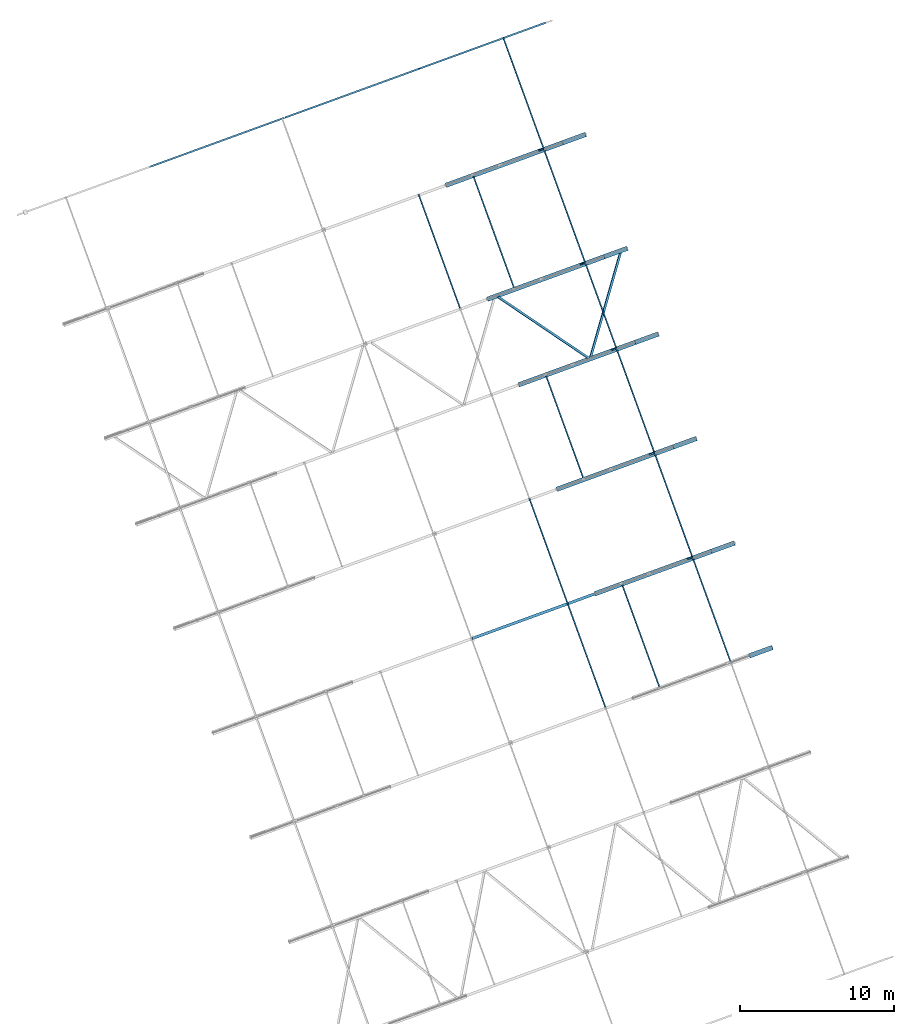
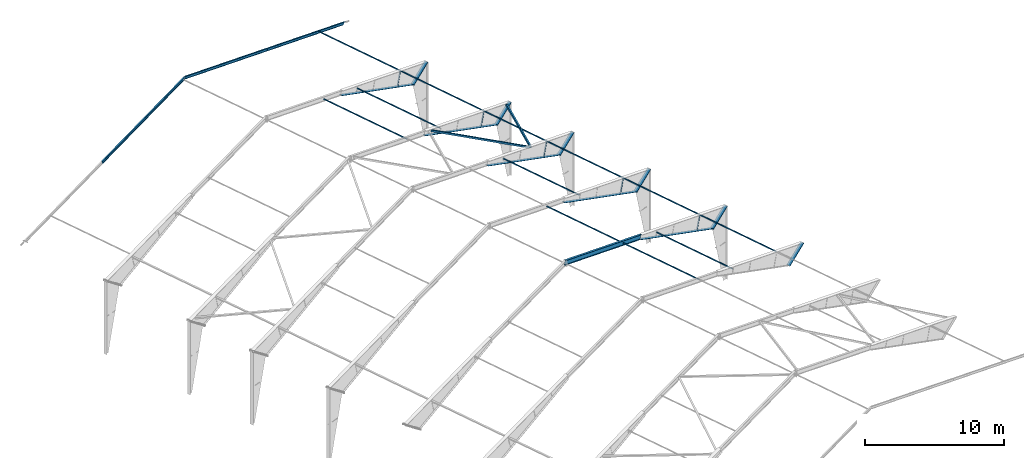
# One storey, part 4 of 17: 22 members, 18 beams, 4 openings, 40 elements without a shape of their own.
"""IFC4 building model written with IfcOpenShell, lengths in millimetres."""

import ifcopenshell
import ifcopenshell.guid

model = None  # the IFC model being written
_history = None  # IfcOwnerHistory: only IFC2X3 demands one
_inside = {}  # id of a spatial element -> (the spatial element, [elements in it])
_under = {}  # id of a project, library or spatial element -> (it, [spatial elements below it])
_declared = {}  # id of a project -> (the project, [libraries it declares])
_typed = {}  # id of a type object -> (the type object, [elements of that type])
_made_of = {}  # id of a material, layer set ... -> (it, [elements and type objects made of it])


def new_model(schema):
    """Start an empty IFC model of exactly this schema.

    Asked for "IFC4X3", IfcOpenShell would pick the latest addendum, in which some entities
    have other attributes; the version numbers below select the first issue.
    IFC2X3 requires an IfcOwnerHistory on every rooted entity: one is made here for all.
    """
    global model, _history
    if schema == "IFC4X3":
        model = ifcopenshell.file(schema_version=(4, 3, 0, 0))
    else:
        model = ifcopenshell.file(schema=schema)
    _inside.clear()
    _under.clear()
    _declared.clear()
    _typed.clear()
    _made_of.clear()
    _history = None
    if model.schema == "IFC2X3":
        org = make("IfcOrganization", Name="unknown")
        user = make(
            "IfcPersonAndOrganization",
            ThePerson=make("IfcPerson", FamilyName="unknown"),
            TheOrganization=org,
        )
        app = make(
            "IfcApplication",
            ApplicationDeveloper=org,
            Version="unknown",
            ApplicationFullName="unknown",
            ApplicationIdentifier="unknown",
        )
        _history = make(
            "IfcOwnerHistory",
            OwningUser=user,
            OwningApplication=app,
            ChangeAction="ADDED",
            CreationDate=0,
        )
    return model


def make(cls, **values):
    """One entity of the class cls with the attributes given. An attribute that is None is left unset."""
    return model.create_entity(
        cls, **{name: value for name, value in values.items() if value is not None}
    )


def rooted(cls, **values):
    """An entity with a GlobalId (a new one), such as an element, a storey or a relation."""
    return make(cls, GlobalId=ifcopenshell.guid.new(), OwnerHistory=_history, **values)


def si_unit(unit_type, name, prefix=None):
    """IfcSIUnit, for example si_unit("LENGTHUNIT", "METRE", prefix="MILLI")."""
    return make("IfcSIUnit", UnitType=unit_type, Prefix=prefix, Name=name)


def assignment(units):
    """IfcUnitAssignment: the units of a project."""
    return None if units is None else make("IfcUnitAssignment", Units=units)


def point(xyz):
    """IfcCartesianPoint."""
    return None if xyz is None else make("IfcCartesianPoint", Coordinates=xyz)


def direction(xyz):
    """IfcDirection."""
    return None if xyz is None else make("IfcDirection", DirectionRatios=xyz)


def frame(location, z_axis=None, x_axis=None):
    """IfcAxis2Placement3D, a coordinate frame: its origin and axes. An axis left out is left unset."""
    return make(
        "IfcAxis2Placement3D",
        Location=point(location),
        Axis=direction(z_axis),
        RefDirection=direction(x_axis),
    )


def origin_with_axes():
    """The frame at (0, 0, 0) with the z axis (0, 0, 1) and the x axis (1, 0, 0) written out."""
    return frame((0.0, 0.0, 0.0), z_axis=(0.0, 0.0, 1.0), x_axis=(1.0, 0.0, 0.0))


def place(relative_to, where):
    """IfcLocalPlacement: puts the frame where relative to a parent placement (None: the world)."""
    return make(
        "IfcLocalPlacement", PlacementRelTo=relative_to, RelativePlacement=where
    )


def context(
    kind, dimensions, precision=None, world=None, true_north=None, identifier=None
):
    """IfcGeometricRepresentationContext, for example the 3D "Model" context."""
    return make(
        "IfcGeometricRepresentationContext",
        ContextIdentifier=identifier,
        ContextType=kind,
        CoordinateSpaceDimension=dimensions,
        Precision=precision,
        WorldCoordinateSystem=world,
        TrueNorth=true_north,
    )


def subcontext(parent, identifier, kind, view, scale=None):
    """IfcGeometricRepresentationSubContext, for example "Body" below "Model"."""
    return make(
        "IfcGeometricRepresentationSubContext",
        ContextIdentifier=identifier,
        ContextType=kind,
        ParentContext=parent,
        TargetScale=scale,
        TargetView=view,
    )


def project(units=None, contexts=None):
    """IfcProject with its units and contexts."""
    return rooted(
        "IfcProject",
        Name="project",
        RepresentationContexts=contexts,
        UnitsInContext=assignment(units),
    )


def spatial(cls, under=None, at=None, **own):
    """A site, building, storey or space (cls), placed at a placement, below another one or the project."""
    s = rooted(cls, ObjectPlacement=at, **own)
    if under is not None:
        _under.setdefault(under.id(), (under, []))[1].append(s)
    return s


def point_list(points):
    """IfcCartesianPointList2D or 3D."""
    cls = (
        "IfcCartesianPointList2D" if len(points[0]) == 2 else "IfcCartesianPointList3D"
    )
    return make(cls, CoordList=points)


def line(*indices):
    """IfcLineIndex: a straight run through numbered points of an indexed curve."""
    return model.create_entity("IfcLineIndex", indices)


def indexed_curve(points, segments=None, self_intersect=None):
    """IfcIndexedPolyCurve: lines and arcs through numbered points (the first is 1)."""
    return make(
        "IfcIndexedPolyCurve",
        Points=point_list(points),
        Segments=segments,
        SelfIntersect=self_intersect,
    )


def outline(outer, holes=None, kind="AREA"):
    """IfcArbitraryClosedProfileDef: a profile drawn as a closed curve; with holes, ...WithVoids."""
    if holes is None:
        return make("IfcArbitraryClosedProfileDef", ProfileType=kind, OuterCurve=outer)
    return make(
        "IfcArbitraryProfileDefWithVoids",
        ProfileType=kind,
        OuterCurve=outer,
        InnerCurves=holes,
    )


def extrude(swept, where, along, depth):
    """IfcExtrudedAreaSolid: the profile swept, set in the frame where, extruded along a direction by depth."""
    return make(
        "IfcExtrudedAreaSolid",
        SweptArea=swept,
        Position=where,
        ExtrudedDirection=direction(along),
        Depth=depth,
    )


def shape(context_of_items, identifier, shape_type, items):
    """IfcShapeRepresentation: the items that make up one representation, for example the "Body"."""
    return make(
        "IfcShapeRepresentation",
        ContextOfItems=context_of_items,
        RepresentationIdentifier=identifier,
        RepresentationType=shape_type,
        Items=items,
    )


def material(Name=None, Category=None):
    """IfcMaterial."""
    return make("IfcMaterial", Name=Name, Category=Category)


def made_of(thing, what):
    """Note that an element or type object is made of a material, layer set ...; save() writes the relation."""
    if what is not None:
        _made_of.setdefault(what.id(), (what, []))[1].append(thing)
    return thing


def element(
    cls,
    number,
    at=None,
    inside=None,
    cuts=None,
    type_object=None,
    material=None,
    context=None,
    identifier="Body",
    shape_type=None,
    held_by="IfcProductDefinitionShape",
    body=None,
    shapes=None,
    **own,
):
    """One element of the class cls, such as IfcWall. Its Tag is "e" and its number.

    at: its placement. inside: the storey or other place that contains it. cuts: it is an
    opening in that element (IfcRelVoidsElement). A single representation is given by context,
    identifier, shape_type and body (its items); several are given by shapes. held_by: the class
    of the entity that holds the representations. save() writes the other relations.
    """
    e = rooted(cls, Tag="e%d" % number, ObjectPlacement=at, **own)
    if body is not None:
        shapes = [shape(context, identifier, shape_type, body)]
    if shapes is not None:
        e.Representation = make(held_by, Representations=shapes)
    if inside is not None:
        _inside.setdefault(inside.id(), (inside, []))[1].append(e)
    if cuts is not None:
        rooted(
            "IfcRelVoidsElement", RelatingBuildingElement=cuts, RelatedOpeningElement=e
        )
    if type_object is not None:
        _typed.setdefault(type_object.id(), (type_object, []))[1].append(e)
    return made_of(e, material)


def aggregate(whole, parts):
    """IfcRelAggregates: a whole, such as a stair, and the parts it consists of."""
    return rooted("IfcRelAggregates", RelatingObject=whole, RelatedObjects=parts)


def save(model, path):
    """Write the relations noted so far, then the file.

    IfcRelAggregates (storeys below a building ...), IfcRelContainedInSpatialStructure (elements
    in a storey), IfcRelDefinesByType, IfcRelAssociatesMaterial and IfcRelDeclares: one each for
    every whole, place, type object, material and project.
    """
    for whole, parts in _under.values():
        aggregate(whole, parts)
    for where, things in _inside.values():
        rooted(
            "IfcRelContainedInSpatialStructure",
            RelatedElements=things,
            RelatingStructure=where,
        )
    for kind, things in _typed.values():
        rooted("IfcRelDefinesByType", RelatedObjects=things, RelatingType=kind)
    for what, things in _made_of.values():
        rooted("IfcRelAssociatesMaterial", RelatedObjects=things, RelatingMaterial=what)
    for by, libraries in _declared.values():
        rooted("IfcRelDeclares", RelatingContext=by, RelatedDefinitions=libraries)
    model.write(path)


model = new_model("IFC4")

# Units and contexts
model_context = context("Model", 3, precision=0.2, world=frame((203566.813, 116264.779, 0.0), z_axis=(0.0, 0.0, 1.0), x_axis=(1.0, 0.0, 0.0)), true_north=direction((-0.9396138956, -0.3422363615)))
body_context = subcontext(model_context, "Body", "Model", "MODEL_VIEW")
ifc_project = project(units=[si_unit("LENGTHUNIT", "METRE", prefix="MILLI"), si_unit("AREAUNIT", "SQUARE_METRE"), si_unit("VOLUMEUNIT", "CUBIC_METRE"), si_unit("MASSUNIT", "GRAM", prefix="KILO"), si_unit("TIMEUNIT", "SECOND"), si_unit("PLANEANGLEUNIT", "RADIAN"), si_unit("SOLIDANGLEUNIT", "STERADIAN"), si_unit("THERMODYNAMICTEMPERATUREUNIT", "DEGREE_CELSIUS"), si_unit("LUMINOUSINTENSITYUNIT", "LUMEN")], contexts=[model_context])

# Site, building, storey
site_placement = place(None, origin_with_axes())
site = spatial("IfcSite", under=ifc_project, at=site_placement, Name="Nobelprojektet", CompositionType="ELEMENT")
building_placement = place(site_placement, origin_with_axes())
building = spatial("IfcBuilding", under=site, at=building_placement, Name="Hall B", CompositionType="ELEMENT")
storey_placement = place(building_placement, frame((0.0, 0.0, 136000.0), z_axis=(0.0, 0.0, 1.0), x_axis=(1.0, 0.0, 0.0)))
storey = spatial("IfcBuildingStorey", under=building, at=storey_placement, Name="Plan_2", CompositionType="ELEMENT", Elevation=136000.0)

# Assembly, member
assembly_1_placement = place(storey_placement, frame((176881.47226, 145513.47574, 3646.88647), z_axis=(-0.5718109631, -0.2082717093, 0.7935081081), x_axis=(-0.7455910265, -0.2715679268, -0.6085596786)))
assembly_1 = element("IfcElementAssembly", 1, at=assembly_1_placement, inside=storey, Name="BEF. STOMME", PredefinedType="NOTDEFINED")
ifc_material = material(Name="S355J2", Category="STEEL")
member_1_placement = place(assembly_1_placement, origin_with_axes())
member_1 = element("IfcMember", 2, at=member_1_placement, material=ifc_material, Name="BEF. STOMME", PredefinedType="NOTDEFINED", context=body_context, shape_type="SolidModel", body=[
    extrude(outline(indexed_curve([(-12.5, -150.0), (12.5, -150.0), (12.5, 150.0), (-12.5, 150.0)], segments=[line(1, 2, 3, 4, 1)])), frame((0.0, 0.0, 0.0), z_axis=(-1.0, 0.0, 0.0), x_axis=(0.0, 0.0, 1.0)), (0.0, 0.0, -1.0), 1980.00858),
])
aggregate(assembly_1, [member_1])

assembly_2_placement = place(storey_placement, frame((176867.18074, 145508.27031, 3666.72647), z_axis=(-0.5718109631, -0.2082717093, 0.7935081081), x_axis=(-0.7455910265, -0.2715679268, -0.6085596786)))
assembly_2 = element("IfcElementAssembly", 3, at=assembly_2_placement, inside=storey, Name="BEF. STOMME", PredefinedType="NOTDEFINED")
member_2_placement = place(assembly_2_placement, origin_with_axes())
member_2 = element("IfcMember", 4, at=member_2_placement, material=ifc_material, Name="BEF. STOMME", PredefinedType="NOTDEFINED", context=body_context, shape_type="SolidModel", body=[
    extrude(outline(indexed_curve([(-12.5, -150.0), (12.5, -150.0), (12.5, 150.0), (-12.5, 150.0)], segments=[line(1, 2, 3, 4, 1)])), frame((0.0, 0.0, 0.0), z_axis=(-1.0, 0.0, 0.0), x_axis=(0.0, 0.0, 1.0)), (0.0, 0.0, -1.0), 1980.00858),
])
aggregate(assembly_2, [member_2])

# Assembly, beam, voiding feature
assembly_3_placement = place(storey_placement, frame((136596.07391, 176640.9237, 5907.00664), z_axis=(-0.3422371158, 0.9396136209, 1.3e-09), x_axis=(0.9075966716, 0.3305755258, 0.2588206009)))
assembly_3 = element("IfcElementAssembly", 5, at=assembly_3_placement, inside=storey, Name="BEF. STOMME", PredefinedType="NOTDEFINED")
beam_1_placement = place(assembly_3_placement, origin_with_axes())
beam_1 = element("IfcBeam", 6, at=beam_1_placement, material=ifc_material, Name="BEF. STOMME", PredefinedType="NOTDEFINED", context=body_context, shape_type="SolidModel", body=[
    extrude(outline(indexed_curve([(-55.0, -110.0), (55.0, -110.0), (55.0, -100.8), (2.95, -100.8), (2.95, 100.8), (55.0, 100.8), (55.0, 110.0), (-55.0, 110.0), (-55.0, 100.8), (-2.95, 100.8), (-2.95, -100.8), (-55.0, -100.8)], segments=[line(1, 2, 3, 4, 5, 6, 7, 8, 9, 10, 11, 12, 1)])), frame((0.0, 0.0, 0.0), z_axis=(-1.0, 0.0, 0.0), x_axis=(0.0, 0.0, 1.0)), (0.0, 0.0, -1.0), 9599.25787),
])
voiding_feature_1_placement = place(beam_1_placement, frame((9599.25787, -110.0, 0.00069), z_axis=(0.0, 0.0, -1.0), x_axis=(-0.258818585, 0.9659259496, -3e-10)))
element("IfcVoidingFeature", 7, at=voiding_feature_1_placement, cuts=beam_1, Name="CUTPART", PredefinedType="HOLE", context=body_context, shape_type="SolidModel", body=[
    extrude(outline(indexed_curve([(0.0, 0.0), (227.75553, 0.0), (212.50371, 56.94009)], segments=[line(1, 2, 3, 1)])), frame((0.0, 0.0, 57.5), z_axis=(0.0, 0.0, 1.0), x_axis=(1.0, 0.0, 0.0)), (0.0, 0.0, -1.0), 115.0),
])
aggregate(assembly_3, [beam_1])

assembly_4_placement = place(storey_placement, frame((162169.50537, 185955.57946, 3578.63666), z_axis=(0.3422371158, -0.9396136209, 1.3e-09), x_axis=(-0.9075966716, -0.3305755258, 0.2588206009)))
assembly_4 = element("IfcElementAssembly", 8, at=assembly_4_placement, inside=storey, Name="BEF. STOMME", PredefinedType="NOTDEFINED")
beam_2_placement = place(assembly_4_placement, origin_with_axes())
beam_2 = element("IfcBeam", 9, at=beam_2_placement, material=ifc_material, Name="BEF. STOMME", PredefinedType="NOTDEFINED", context=body_context, shape_type="SolidModel", body=[
    extrude(outline(indexed_curve([(-55.0, -110.0), (55.0, -110.0), (55.0, -100.8), (2.95, -100.8), (2.95, 100.8), (55.0, 100.8), (55.0, 110.0), (-55.0, 110.0), (-55.0, 100.8), (-2.95, 100.8), (-2.95, -100.8), (-55.0, -100.8)], segments=[line(1, 2, 3, 4, 5, 6, 7, 8, 9, 10, 11, 12, 1)])), frame((0.0, 0.0, 0.0), z_axis=(-1.0, 0.0, 0.0), x_axis=(0.0, 0.0, 1.0)), (0.0, 0.0, -1.0), 8966.09461),
])
voiding_feature_2_placement = place(beam_2_placement, frame((0.00035, 110.0, -0.00069), z_axis=(0.0, 0.0, -1.0), x_axis=(1.0, 0.0, 0.0)))
element("IfcVoidingFeature", 10, at=voiding_feature_2_placement, cuts=beam_2, Name="CUTPART", PredefinedType="HOLE", context=body_context, shape_type="SolidModel", body=[
    extrude(outline(indexed_curve([(0.0, 0.0), (168.81121, 0.0), (0.0, 220.0)], segments=[line(1, 2, 3, 1)])), frame((0.0, 0.0, 57.5), z_axis=(0.0, 0.0, 1.0), x_axis=(1.0, 0.0, 0.0)), (0.0, 0.0, -1.0), 115.0),
])
aggregate(assembly_4, [beam_2])

assembly_5_placement = place(storey_placement, frame((154004.67649, 182981.68953, 5907.00664), z_axis=(0.3422371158, -0.9396136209, 1.3e-09), x_axis=(-0.9075966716, -0.3305755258, 0.2588206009)))
assembly_5 = element("IfcElementAssembly", 11, at=assembly_5_placement, inside=storey, Name="BEF. STOMME", PredefinedType="NOTDEFINED")
beam_3_placement = place(assembly_5_placement, origin_with_axes())
beam_3 = element("IfcBeam", 12, at=beam_3_placement, material=ifc_material, Name="BEF. STOMME", PredefinedType="NOTDEFINED", context=body_context, shape_type="SolidModel", body=[
    extrude(outline(indexed_curve([(-55.0, -110.0), (55.0, -110.0), (55.0, -100.8), (2.95, -100.8), (2.95, 100.8), (55.0, 100.8), (55.0, 110.0), (-55.0, 110.0), (-55.0, 100.8), (-2.95, 100.8), (-2.95, -100.8), (-55.0, -100.8)], segments=[line(1, 2, 3, 4, 5, 6, 7, 8, 9, 10, 11, 12, 1)])), frame((0.0, 0.0, 0.0), z_axis=(-1.0, 0.0, 0.0), x_axis=(0.0, 0.0, 1.0)), (0.0, 0.0, -1.0), 9599.25787),
])
voiding_feature_3_placement = place(beam_3_placement, frame((9599.25787, -110.0, -0.0007), z_axis=(0.0, 0.0, -1.0), x_axis=(-0.258818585, 0.9659259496, -3e-10)))
element("IfcVoidingFeature", 13, at=voiding_feature_3_placement, cuts=beam_3, Name="CUTPART", PredefinedType="HOLE", context=body_context, shape_type="SolidModel", body=[
    extrude(outline(indexed_curve([(0.0, 0.0), (227.75553, 0.0), (212.50371, 56.94009)], segments=[line(1, 2, 3, 1)])), frame((0.0, 0.0, 57.5), z_axis=(0.0, 0.0, 1.0), x_axis=(1.0, 0.0, 0.0)), (0.0, 0.0, -1.0), 115.0),
])
aggregate(assembly_5, [beam_3])

# Assembly, beam
assembly_6_placement = place(storey_placement, frame((174171.06952, 144590.04172, 4350.33212), z_axis=(-0.2431901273, -0.0885768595, -0.9659258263), x_axis=(-0.3422371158, 0.9396136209, 1.3e-09)))
assembly_6 = element("IfcElementAssembly", 14, at=assembly_6_placement, inside=storey, Name="BEF. STOMME", PredefinedType="NOTDEFINED")
beam_4_placement = place(assembly_6_placement, origin_with_axes())
beam_4 = element("IfcBeam", 15, at=beam_4_placement, material=ifc_material, Name="BEF. STOMME", PredefinedType="NOTDEFINED", context=body_context, shape_type="SolidModel", body=[
    extrude(outline(indexed_curve([(-40.0, -40.0), (40.0, -40.0), (40.0, 40.0), (-40.0, 40.0)], segments=[line(1, 2, 3, 4, 1)]), holes=[indexed_curve([(-36.0, -36.0), (-36.0, 36.0), (36.0, 36.0), (36.0, -36.0)], segments=[line(1, 2, 3, 4, 1)])]), frame((0.0, 0.0, 0.0), z_axis=(-1.0, 0.0, 0.0), x_axis=(0.0, 0.0, 1.0)), (0.0, 0.0, -1.0), 7199.99997),
])
aggregate(assembly_6, [beam_4])

assembly_7_placement = place(storey_placement, frame((166069.68628, 141639.26074, 6505.31233), z_axis=(0.9075974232, 0.3305758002, -0.2588176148), x_axis=(-0.3422371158, 0.9396136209, 1.3e-09)))
assembly_7 = element("IfcElementAssembly", 16, at=assembly_7_placement, inside=storey, Name="BEF. STOMME", PredefinedType="NOTDEFINED")
beam_5_placement = place(assembly_7_placement, origin_with_axes())
beam_5 = element("IfcBeam", 17, at=beam_5_placement, material=ifc_material, Name="BEF. STOMME", PredefinedType="NOTDEFINED", context=body_context, shape_type="SolidModel", body=[
    extrude(outline(indexed_curve([(-40.0, -40.0), (40.0, -40.0), (40.0, 40.0), (-40.0, 40.0)], segments=[line(1, 2, 3, 4, 1)]), holes=[indexed_curve([(-36.0, -36.0), (-36.0, 36.0), (36.0, 36.0), (36.0, -36.0)], segments=[line(1, 2, 3, 4, 1)])]), frame((0.0, 0.0, 0.0), z_axis=(-1.0, 0.0, 0.0), x_axis=(0.0, 0.0, 1.0)), (0.0, 0.0, -1.0), 7199.99997),
])
aggregate(assembly_7, [beam_5])

assembly_8_placement = place(storey_placement, frame((169579.91363, 142917.797, 5452.54233), z_axis=(0.9075974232, 0.3305758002, -0.2588176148), x_axis=(-0.3422371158, 0.9396136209, 1.3e-09)))
assembly_8 = element("IfcElementAssembly", 18, at=assembly_8_placement, inside=storey, Name="BEF. STOMME", PredefinedType="NOTDEFINED")
beam_6_placement = place(assembly_8_placement, origin_with_axes())
beam_6 = element("IfcBeam", 19, at=beam_6_placement, material=ifc_material, Name="BEF. STOMME", PredefinedType="NOTDEFINED", context=body_context, shape_type="SolidModel", body=[
    extrude(outline(indexed_curve([(-40.0, -40.0), (40.0, -40.0), (40.0, 40.0), (-40.0, 40.0)], segments=[line(1, 2, 3, 4, 1)]), holes=[indexed_curve([(-36.0, -36.0), (-36.0, 36.0), (36.0, 36.0), (36.0, -36.0)], segments=[line(1, 2, 3, 4, 1)])]), frame((0.0, 0.0, 0.0), z_axis=(-1.0, 0.0, 0.0), x_axis=(0.0, 0.0, 1.0)), (0.0, 0.0, -1.0), 7199.99997),
])
aggregate(assembly_8, [beam_6])

assembly_9_placement = place(storey_placement, frame((169242.85505, 158120.47786, 4350.33212), z_axis=(-0.2431901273, -0.0885768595, -0.9659258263), x_axis=(-0.3422371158, 0.9396136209, 1.3e-09)))
assembly_9 = element("IfcElementAssembly", 20, at=assembly_9_placement, inside=storey, Name="BEF. STOMME", PredefinedType="NOTDEFINED")
beam_7_placement = place(assembly_9_placement, origin_with_axes())
beam_7 = element("IfcBeam", 21, at=beam_7_placement, material=ifc_material, Name="BEF. STOMME", PredefinedType="NOTDEFINED", context=body_context, shape_type="SolidModel", body=[
    extrude(outline(indexed_curve([(-40.0, -40.0), (40.0, -40.0), (40.0, 40.0), (-40.0, 40.0)], segments=[line(1, 2, 3, 4, 1)]), holes=[indexed_curve([(-36.0, -36.0), (-36.0, 36.0), (36.0, 36.0), (36.0, -36.0)], segments=[line(1, 2, 3, 4, 1)])]), frame((0.0, 0.0, 0.0), z_axis=(-1.0, 0.0, 0.0), x_axis=(0.0, 0.0, 1.0)), (0.0, 0.0, -1.0), 7199.99997),
])
aggregate(assembly_9, [beam_7])

assembly_10_placement = place(storey_placement, frame((164651.69916, 156448.23314, 5452.54233), z_axis=(0.9075974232, 0.3305758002, -0.2588176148), x_axis=(-0.3422371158, 0.9396136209, 1.3e-09)))
assembly_10 = element("IfcElementAssembly", 22, at=assembly_10_placement, inside=storey, Name="BEF. STOMME", PredefinedType="NOTDEFINED")
beam_8_placement = place(assembly_10_placement, origin_with_axes())
beam_8 = element("IfcBeam", 23, at=beam_8_placement, material=ifc_material, Name="BEF. STOMME", PredefinedType="NOTDEFINED", context=body_context, shape_type="SolidModel", body=[
    extrude(outline(indexed_curve([(-40.0, -40.0), (40.0, -40.0), (40.0, 40.0), (-40.0, 40.0)], segments=[line(1, 2, 3, 4, 1)]), holes=[indexed_curve([(-36.0, -36.0), (-36.0, 36.0), (36.0, 36.0), (36.0, -36.0)], segments=[line(1, 2, 3, 4, 1)])]), frame((0.0, 0.0, 0.0), z_axis=(-1.0, 0.0, 0.0), x_axis=(0.0, 0.0, 1.0)), (0.0, 0.0, -1.0), 7199.99997),
])
aggregate(assembly_10, [beam_8])

assembly_11_placement = place(storey_placement, frame((164760.91778, 170425.65784, 4350.33212), z_axis=(-0.2431901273, -0.0885768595, -0.9659258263), x_axis=(-0.3422371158, 0.9396136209, 1.3e-09)))
assembly_11 = element("IfcElementAssembly", 24, at=assembly_11_placement, inside=storey, Name="BEF. STOMME", PredefinedType="NOTDEFINED")
beam_9_placement = place(assembly_11_placement, origin_with_axes())
beam_9 = element("IfcBeam", 25, at=beam_9_placement, material=ifc_material, Name="BEF. STOMME", PredefinedType="NOTDEFINED", context=body_context, shape_type="SolidModel", body=[
    extrude(outline(indexed_curve([(-40.0, -40.0), (40.0, -40.0), (40.0, 40.0), (-40.0, 40.0)], segments=[line(1, 2, 3, 4, 1)]), holes=[indexed_curve([(-36.0, -36.0), (-36.0, 36.0), (36.0, 36.0), (36.0, -36.0)], segments=[line(1, 2, 3, 4, 1)])]), frame((0.0, 0.0, 0.0), z_axis=(-1.0, 0.0, 0.0), x_axis=(0.0, 0.0, 1.0)), (0.0, 0.0, -1.0), 7849.99997),
])
aggregate(assembly_11, [beam_9])

assembly_12_placement = place(storey_placement, frame((156659.53454, 167474.87686, 6505.31233), z_axis=(0.9075974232, 0.3305758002, -0.2588176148), x_axis=(-0.3422371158, 0.9396136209, 1.3e-09)))
assembly_12 = element("IfcElementAssembly", 26, at=assembly_12_placement, inside=storey, Name="BEF. STOMME", PredefinedType="NOTDEFINED")
beam_10_placement = place(assembly_12_placement, origin_with_axes())
beam_10 = element("IfcBeam", 27, at=beam_10_placement, material=ifc_material, Name="BEF. STOMME", PredefinedType="NOTDEFINED", context=body_context, shape_type="SolidModel", body=[
    extrude(outline(indexed_curve([(-40.0, -40.0), (40.0, -40.0), (40.0, 40.0), (-40.0, 40.0)], segments=[line(1, 2, 3, 4, 1)]), holes=[indexed_curve([(-36.0, -36.0), (-36.0, 36.0), (36.0, 36.0), (36.0, -36.0)], segments=[line(1, 2, 3, 4, 1)])]), frame((0.0, 0.0, 0.0), z_axis=(-1.0, 0.0, 0.0), x_axis=(0.0, 0.0, 1.0)), (0.0, 0.0, -1.0), 7849.99997),
])
aggregate(assembly_12, [beam_10])

assembly_13_placement = place(storey_placement, frame((160169.7619, 168753.41312, 5452.54233), z_axis=(0.9075974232, 0.3305758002, -0.2588176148), x_axis=(-0.3422371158, 0.9396136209, 1.3e-09)))
assembly_13 = element("IfcElementAssembly", 28, at=assembly_13_placement, inside=storey, Name="BEF. STOMME", PredefinedType="NOTDEFINED")
beam_11_placement = place(assembly_13_placement, origin_with_axes())
beam_11 = element("IfcBeam", 29, at=beam_11_placement, material=ifc_material, Name="BEF. STOMME", PredefinedType="NOTDEFINED", context=body_context, shape_type="SolidModel", body=[
    extrude(outline(indexed_curve([(-40.0, -40.0), (40.0, -40.0), (40.0, 40.0), (-40.0, 40.0)], segments=[line(1, 2, 3, 4, 1)]), holes=[indexed_curve([(-36.0, -36.0), (-36.0, 36.0), (36.0, 36.0), (36.0, -36.0)], segments=[line(1, 2, 3, 4, 1)])]), frame((0.0, 0.0, 0.0), z_axis=(-1.0, 0.0, 0.0), x_axis=(0.0, 0.0, 1.0)), (0.0, 0.0, -1.0), 7849.99997),
])
aggregate(assembly_13, [beam_11])

assembly_14_placement = place(storey_placement, frame((171706.96228, 151355.25979, 4350.33212), z_axis=(-0.2431901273, -0.0885768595, -0.9659258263), x_axis=(-0.3422371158, 0.9396136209, 1.3e-09)))
assembly_14 = element("IfcElementAssembly", 30, at=assembly_14_placement, inside=storey, Name="BEF. STOMME", PredefinedType="NOTDEFINED")
beam_12_placement = place(assembly_14_placement, origin_with_axes())
beam_12 = element("IfcBeam", 31, at=beam_12_placement, material=ifc_material, Name="BEF. STOMME", PredefinedType="NOTDEFINED", context=body_context, shape_type="SolidModel", body=[
    extrude(outline(indexed_curve([(-40.0, -40.0), (40.0, -40.0), (40.0, 40.0), (-40.0, 40.0)], segments=[line(1, 2, 3, 4, 1)]), holes=[indexed_curve([(-36.0, -36.0), (-36.0, 36.0), (36.0, 36.0), (36.0, -36.0)], segments=[line(1, 2, 3, 4, 1)])]), frame((0.0, 0.0, 0.0), z_axis=(-1.0, 0.0, 0.0), x_axis=(0.0, 0.0, 1.0)), (0.0, 0.0, -1.0), 7199.99997),
])
aggregate(assembly_14, [beam_12])

assembly_15_placement = place(storey_placement, frame((163605.57904, 148404.47881, 6505.31233), z_axis=(0.9075974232, 0.3305758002, -0.2588176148), x_axis=(-0.3422371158, 0.9396136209, 1.3e-09)))
assembly_15 = element("IfcElementAssembly", 32, at=assembly_15_placement, inside=storey, Name="BEF. STOMME", PredefinedType="NOTDEFINED")
beam_13_placement = place(assembly_15_placement, origin_with_axes())
beam_13 = element("IfcBeam", 33, at=beam_13_placement, material=ifc_material, Name="BEF. STOMME", PredefinedType="NOTDEFINED", context=body_context, shape_type="SolidModel", body=[
    extrude(outline(indexed_curve([(-40.0, -40.0), (40.0, -40.0), (40.0, 40.0), (-40.0, 40.0)], segments=[line(1, 2, 3, 4, 1)]), holes=[indexed_curve([(-36.0, -36.0), (-36.0, 36.0), (36.0, 36.0), (36.0, -36.0)], segments=[line(1, 2, 3, 4, 1)])]), frame((0.0, 0.0, 0.0), z_axis=(-1.0, 0.0, 0.0), x_axis=(0.0, 0.0, 1.0)), (0.0, 0.0, -1.0), 7199.99997),
])
aggregate(assembly_15, [beam_13])

assembly_16_placement = place(storey_placement, frame((166778.74782, 164885.69593, 4350.33212), z_axis=(-0.2431901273, -0.0885768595, -0.9659258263), x_axis=(-0.3422371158, 0.9396136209, 1.3e-09)))
assembly_16 = element("IfcElementAssembly", 34, at=assembly_16_placement, inside=storey, Name="BEF. STOMME", PredefinedType="NOTDEFINED")
beam_14_placement = place(assembly_16_placement, origin_with_axes())
beam_14 = element("IfcBeam", 35, at=beam_14_placement, material=ifc_material, Name="BEF. STOMME", PredefinedType="NOTDEFINED", context=body_context, shape_type="SolidModel", body=[
    extrude(outline(indexed_curve([(-40.0, -40.0), (40.0, -40.0), (40.0, 40.0), (-40.0, 40.0)], segments=[line(1, 2, 3, 4, 1)]), holes=[indexed_curve([(-36.0, -36.0), (-36.0, 36.0), (36.0, 36.0), (36.0, -36.0)], segments=[line(1, 2, 3, 4, 1)])]), frame((0.0, 0.0, 0.0), z_axis=(-1.0, 0.0, 0.0), x_axis=(0.0, 0.0, 1.0)), (0.0, 0.0, -1.0), 5899.99997),
])
aggregate(assembly_16, [beam_14])

assembly_17_placement = place(storey_placement, frame((162098.65525, 177734.91219, 4350.33212), z_axis=(-0.2431901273, -0.0885768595, -0.9659258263), x_axis=(-0.3422371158, 0.9396136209, 1.3e-09)))
assembly_17 = element("IfcElementAssembly", 36, at=assembly_17_placement, inside=storey, Name="BEF. STOMME", PredefinedType="NOTDEFINED")
beam_15_placement = place(assembly_17_placement, origin_with_axes())
beam_15 = element("IfcBeam", 37, at=beam_15_placement, material=ifc_material, Name="BEF. STOMME", PredefinedType="NOTDEFINED", context=body_context, shape_type="SolidModel", body=[
    extrude(outline(indexed_curve([(-40.0, -40.0), (40.0, -40.0), (40.0, 40.0), (-40.0, 40.0)], segments=[line(1, 2, 3, 4, 1)]), holes=[indexed_curve([(-36.0, -36.0), (-36.0, 36.0), (36.0, 36.0), (36.0, -36.0)], segments=[line(1, 2, 3, 4, 1)])]), frame((0.0, 0.0, 0.0), z_axis=(-1.0, 0.0, 0.0), x_axis=(0.0, 0.0, 1.0)), (0.0, 0.0, -1.0), 7699.99997),
])
aggregate(assembly_17, [beam_15])

assembly_18_placement = place(storey_placement, frame((167049.17798, 171109.61034, 3677.93853), z_axis=(-0.9183547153, 0.3038432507, 0.2535821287), x_axis=(-0.271327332, -0.9498446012, 0.155488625)))
assembly_18 = element("IfcElementAssembly", 38, at=assembly_18_placement, inside=storey, Name="BEFINTLIG", PredefinedType="NOTDEFINED")
beam_16_placement = place(assembly_18_placement, origin_with_axes())
beam_16 = element("IfcBeam", 39, at=beam_16_placement, material=ifc_material, Name="BEFINTLIG", PredefinedType="NOTDEFINED", context=body_context, shape_type="SolidModel", body=[
    extrude(outline(indexed_curve([(-70.0, -70.0), (70.0, -70.0), (70.0, 70.0), (-70.0, 70.0)], segments=[line(1, 2, 3, 4, 1)]), holes=[indexed_curve([(-65.0, -65.0), (-65.0, 65.0), (65.0, 65.0), (65.0, -65.0)], segments=[line(1, 2, 3, 4, 1)])]), frame((0.0, 0.0, 0.0), z_axis=(-1.0, 0.0, 0.0), x_axis=(0.0, 0.0, 1.0)), (0.0, 0.0, -1.0), 7216.41212),
])
aggregate(assembly_18, [beam_16])

assembly_19_placement = place(storey_placement, frame((159107.00059, 168215.60667, 5942.85229), z_axis=(-0.5252856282, -0.8302667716, 0.1863654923), x_axis=(0.8186525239, -0.5528393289, -0.155488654)))
assembly_19 = element("IfcElementAssembly", 40, at=assembly_19_placement, inside=storey, Name="BEFINTLIG", PredefinedType="NOTDEFINED")
beam_17_placement = place(assembly_19_placement, origin_with_axes())
beam_17 = element("IfcBeam", 41, at=beam_17_placement, material=ifc_material, Name="BEFINTLIG", PredefinedType="NOTDEFINED", context=body_context, shape_type="SolidModel", body=[
    extrude(outline(indexed_curve([(-70.0, -70.0), (70.0, -70.0), (70.0, 70.0), (-70.0, 70.0)], segments=[line(1, 2, 3, 4, 1)]), holes=[indexed_curve([(-65.0, -65.0), (-65.0, 65.0), (65.0, 65.0), (65.0, -65.0)], segments=[line(1, 2, 3, 4, 1)])]), frame((0.0, 0.0, 0.0), z_axis=(-1.0, 0.0, 0.0), x_axis=(0.0, 0.0, 1.0)), (0.0, 0.0, -1.0), 7216.41212),
])
aggregate(assembly_19, [beam_17])

# Assembly, member
assembly_20_placement = place(storey_placement, frame((174417.36503, 152278.69381, 3646.88647), z_axis=(-0.5718109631, -0.2082717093, 0.7935081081), x_axis=(-0.7455910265, -0.2715679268, -0.6085596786)))
assembly_20 = element("IfcElementAssembly", 42, at=assembly_20_placement, inside=storey, Name="BEF. STOMME", PredefinedType="NOTDEFINED")
member_3_placement = place(assembly_20_placement, origin_with_axes())
member_3 = element("IfcMember", 43, at=member_3_placement, material=ifc_material, Name="BEF. STOMME", PredefinedType="NOTDEFINED", context=body_context, shape_type="SolidModel", body=[
    extrude(outline(indexed_curve([(-12.5, -150.0), (12.5, -150.0), (12.5, 150.0), (-12.5, 150.0)], segments=[line(1, 2, 3, 4, 1)])), frame((0.0, 0.0, 0.0), z_axis=(-1.0, 0.0, 0.0), x_axis=(0.0, 0.0, 1.0)), (0.0, 0.0, -1.0), 1980.00858),
])
aggregate(assembly_20, [member_3])

assembly_21_placement = place(storey_placement, frame((174403.07351, 152273.48838, 3666.72647), z_axis=(-0.5718109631, -0.2082717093, 0.7935081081), x_axis=(-0.7455910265, -0.2715679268, -0.6085596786)))
assembly_21 = element("IfcElementAssembly", 44, at=assembly_21_placement, inside=storey, Name="BEF. STOMME", PredefinedType="NOTDEFINED")
member_4_placement = place(assembly_21_placement, origin_with_axes())
member_4 = element("IfcMember", 45, at=member_4_placement, material=ifc_material, Name="BEF. STOMME", PredefinedType="NOTDEFINED", context=body_context, shape_type="SolidModel", body=[
    extrude(outline(indexed_curve([(-12.5, -150.0), (12.5, -150.0), (12.5, 150.0), (-12.5, 150.0)], segments=[line(1, 2, 3, 4, 1)])), frame((0.0, 0.0, 0.0), z_axis=(-1.0, 0.0, 0.0), x_axis=(0.0, 0.0, 1.0)), (0.0, 0.0, -1.0), 1980.00858),
])
aggregate(assembly_21, [member_4])

assembly_22_placement = place(storey_placement, frame((172942.05077, 151741.33751, 2495.62175), z_axis=(0.3620433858, 0.131867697, 0.9227868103), x_axis=(-0.8670630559, -0.315811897, 0.385310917)))
assembly_22 = element("IfcElementAssembly", 46, at=assembly_22_placement, inside=storey, Name="BEF. STOMME", PredefinedType="NOTDEFINED")
member_5_placement = place(assembly_22_placement, origin_with_axes())
member_5 = element("IfcMember", 47, at=member_5_placement, material=ifc_material, Name="BEF. STOMME", PredefinedType="NOTDEFINED", context=body_context, shape_type="SolidModel", body=[
    extrude(outline(indexed_curve([(-10.0, -150.0), (10.0, -150.0), (10.0, 150.0), (-10.0, 150.0)], segments=[line(1, 2, 3, 4, 1)])), frame((0.0, 0.0, 0.0), z_axis=(-1.0, 0.0, 0.0), x_axis=(0.0, 0.0, 1.0)), (0.0, 0.0, -1.0), 8726.68705),
])
aggregate(assembly_22, [member_5])

# Assembly, beam, voiding feature
assembly_23_placement = place(storey_placement, frame((165422.91086, 149002.628, 6043.94632), z_axis=(0.3422371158, -0.9396136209, 1.3e-09), x_axis=(-0.9075966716, -0.3305755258, 0.2588206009)))
assembly_23 = element("IfcElementAssembly", 48, at=assembly_23_placement, inside=storey, Name="BEF. STOMME", PredefinedType="NOTDEFINED")
beam_18_placement = place(assembly_23_placement, origin_with_axes())
beam_18 = element("IfcBeam", 49, at=beam_18_placement, material=ifc_material, Name="BEF. STOMME", PredefinedType="NOTDEFINED", context=body_context, shape_type="SolidModel", body=[
    extrude(outline(indexed_curve([(-90.0, -200.0), (90.0, -200.0), (90.0, -186.5), (4.3, -186.5), (4.3, 186.5), (90.0, 186.5), (90.0, 200.0), (-90.0, 200.0), (-90.0, 186.5), (-4.3, 186.5), (-4.3, -186.5), (-90.0, -186.5)], segments=[line(1, 2, 3, 4, 5, 6, 7, 8, 9, 10, 11, 12, 1)])), frame((0.0, 0.0, 0.0), z_axis=(-1.0, 0.0, 0.0), x_axis=(0.0, 0.0, 1.0)), (0.0, 0.0, -1.0), 8807.09025),
])
voiding_feature_4_placement = place(beam_18_placement, frame((-108151.70461, -26811.76031, -51272.26457), z_axis=(0.9075574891, 0.2431808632, -0.3423484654), x_axis=(0.252427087, 0.3355889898, 0.9075574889)))
element("IfcVoidingFeature", 50, at=voiding_feature_4_placement, cuts=beam_18, Name="CUTPART", PredefinedType="HOLE", context=body_context, shape_type="SolidModel", body=[
    extrude(outline(indexed_curve([(0.0, 0.0), (180.00355, 0.0), (71.46317, 405.07559), (0.0, 400.0)], segments=[line(1, 2, 3, 4, 1)])), frame((0.0, 0.0, 92.5), z_axis=(0.0, 0.0, 1.0), x_axis=(1.0, 0.0, 0.0)), (0.0, 0.0, -1.0), 185.0),
])
aggregate(assembly_23, [beam_18])

# Assembly, member
assembly_24_placement = place(storey_placement, frame((171387.41777, 151228.30417, 3191.07202), z_axis=(0.9075974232, 0.3305758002, -0.2588176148), x_axis=(0.2431885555, 0.0885769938, 0.9659262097)))
assembly_24 = element("IfcElementAssembly", 51, at=assembly_24_placement, inside=storey, Name="BEF. STOMME", PredefinedType="NOTDEFINED")
member_6_placement = place(assembly_24_placement, origin_with_axes())
member_6 = element("IfcMember", 52, at=member_6_placement, material=ifc_material, Name="BEF. STOMME", PredefinedType="NOTDEFINED", context=body_context, shape_type="SolidModel", body=[
    extrude(outline(indexed_curve([(-7.5, -50.0), (7.5, -50.0), (7.5, 50.0), (-7.5, 50.0)], segments=[line(1, 2, 3, 4, 1)])), frame((0.0, 0.0, 0.0), z_axis=(-1.0, 0.0, 0.0), x_axis=(0.0, 0.0, 1.0)), (0.0, 0.0, -1.0), 1288.01813),
])
aggregate(assembly_24, [member_6])

assembly_25_placement = place(storey_placement, frame((171953.25779, 159043.91188, 3646.88647), z_axis=(-0.5718109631, -0.2082717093, 0.7935081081), x_axis=(-0.7455910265, -0.2715679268, -0.6085596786)))
assembly_25 = element("IfcElementAssembly", 53, at=assembly_25_placement, inside=storey, Name="BEF. STOMME", PredefinedType="NOTDEFINED")
member_7_placement = place(assembly_25_placement, origin_with_axes())
member_7 = element("IfcMember", 54, at=member_7_placement, material=ifc_material, Name="BEF. STOMME", PredefinedType="NOTDEFINED", context=body_context, shape_type="SolidModel", body=[
    extrude(outline(indexed_curve([(-12.5, -150.0), (12.5, -150.0), (12.5, 150.0), (-12.5, 150.0)], segments=[line(1, 2, 3, 4, 1)])), frame((0.0, 0.0, 0.0), z_axis=(-1.0, 0.0, 0.0), x_axis=(0.0, 0.0, 1.0)), (0.0, 0.0, -1.0), 1980.00858),
])
aggregate(assembly_25, [member_7])

assembly_26_placement = place(storey_placement, frame((171938.96627, 159038.70645, 3666.72647), z_axis=(-0.5718109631, -0.2082717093, 0.7935081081), x_axis=(-0.7455910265, -0.2715679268, -0.6085596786)))
assembly_26 = element("IfcElementAssembly", 55, at=assembly_26_placement, inside=storey, Name="BEF. STOMME", PredefinedType="NOTDEFINED")
member_8_placement = place(assembly_26_placement, origin_with_axes())
member_8 = element("IfcMember", 56, at=member_8_placement, material=ifc_material, Name="BEF. STOMME", PredefinedType="NOTDEFINED", context=body_context, shape_type="SolidModel", body=[
    extrude(outline(indexed_curve([(-12.5, -150.0), (12.5, -150.0), (12.5, 150.0), (-12.5, 150.0)], segments=[line(1, 2, 3, 4, 1)])), frame((0.0, 0.0, 0.0), z_axis=(-1.0, 0.0, 0.0), x_axis=(0.0, 0.0, 1.0)), (0.0, 0.0, -1.0), 1980.00858),
])
aggregate(assembly_26, [member_8])

assembly_27_placement = place(storey_placement, frame((170477.94354, 158506.55558, 2495.62175), z_axis=(0.3620433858, 0.131867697, 0.9227868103), x_axis=(-0.8670630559, -0.315811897, 0.385310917)))
assembly_27 = element("IfcElementAssembly", 57, at=assembly_27_placement, inside=storey, Name="BEF. STOMME", PredefinedType="NOTDEFINED")
member_9_placement = place(assembly_27_placement, origin_with_axes())
member_9 = element("IfcMember", 58, at=member_9_placement, material=ifc_material, Name="BEF. STOMME", PredefinedType="NOTDEFINED", context=body_context, shape_type="SolidModel", body=[
    extrude(outline(indexed_curve([(-10.0, -150.0), (10.0, -150.0), (10.0, 150.0), (-10.0, 150.0)], segments=[line(1, 2, 3, 4, 1)])), frame((0.0, 0.0, 0.0), z_axis=(-1.0, 0.0, 0.0), x_axis=(0.0, 0.0, 1.0)), (0.0, 0.0, -1.0), 8726.68705),
])
aggregate(assembly_27, [member_9])

assembly_28_placement = place(storey_placement, frame((168923.31054, 157993.52224, 3191.07202), z_axis=(0.9075974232, 0.3305758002, -0.2588176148), x_axis=(0.2431885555, 0.0885769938, 0.9659262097)))
assembly_28 = element("IfcElementAssembly", 59, at=assembly_28_placement, inside=storey, Name="BEF. STOMME", PredefinedType="NOTDEFINED")
member_10_placement = place(assembly_28_placement, origin_with_axes())
member_10 = element("IfcMember", 60, at=member_10_placement, material=ifc_material, Name="BEF. STOMME", PredefinedType="NOTDEFINED", context=body_context, shape_type="SolidModel", body=[
    extrude(outline(indexed_curve([(-7.5, -50.0), (7.5, -50.0), (7.5, 50.0), (-7.5, 50.0)], segments=[line(1, 2, 3, 4, 1)])), frame((0.0, 0.0, 0.0), z_axis=(-1.0, 0.0, 0.0), x_axis=(0.0, 0.0, 1.0)), (0.0, 0.0, -1.0), 1288.01813),
])
aggregate(assembly_28, [member_10])

assembly_29_placement = place(storey_placement, frame((169489.15056, 165809.12995, 3646.88647), z_axis=(-0.5718109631, -0.2082717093, 0.7935081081), x_axis=(-0.7455910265, -0.2715679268, -0.6085596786)))
assembly_29 = element("IfcElementAssembly", 61, at=assembly_29_placement, inside=storey, Name="BEF. STOMME", PredefinedType="NOTDEFINED")
member_11_placement = place(assembly_29_placement, origin_with_axes())
member_11 = element("IfcMember", 62, at=member_11_placement, material=ifc_material, Name="BEF. STOMME", PredefinedType="NOTDEFINED", context=body_context, shape_type="SolidModel", body=[
    extrude(outline(indexed_curve([(-12.5, -150.0), (12.5, -150.0), (12.5, 150.0), (-12.5, 150.0)], segments=[line(1, 2, 3, 4, 1)])), frame((0.0, 0.0, 0.0), z_axis=(-1.0, 0.0, 0.0), x_axis=(0.0, 0.0, 1.0)), (0.0, 0.0, -1.0), 1980.00858),
])
aggregate(assembly_29, [member_11])

assembly_30_placement = place(storey_placement, frame((169474.85904, 165803.92452, 3666.72647), z_axis=(-0.5718109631, -0.2082717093, 0.7935081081), x_axis=(-0.7455910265, -0.2715679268, -0.6085596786)))
assembly_30 = element("IfcElementAssembly", 63, at=assembly_30_placement, inside=storey, Name="BEF. STOMME", PredefinedType="NOTDEFINED")
member_12_placement = place(assembly_30_placement, origin_with_axes())
member_12 = element("IfcMember", 64, at=member_12_placement, material=ifc_material, Name="BEF. STOMME", PredefinedType="NOTDEFINED", context=body_context, shape_type="SolidModel", body=[
    extrude(outline(indexed_curve([(-12.5, -150.0), (12.5, -150.0), (12.5, 150.0), (-12.5, 150.0)], segments=[line(1, 2, 3, 4, 1)])), frame((0.0, 0.0, 0.0), z_axis=(-1.0, 0.0, 0.0), x_axis=(0.0, 0.0, 1.0)), (0.0, 0.0, -1.0), 1980.00858),
])
aggregate(assembly_30, [member_12])

assembly_31_placement = place(storey_placement, frame((168013.8363, 165271.77365, 2495.62175), z_axis=(0.3620433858, 0.131867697, 0.9227868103), x_axis=(-0.8670630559, -0.315811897, 0.385310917)))
assembly_31 = element("IfcElementAssembly", 65, at=assembly_31_placement, inside=storey, Name="BEF. STOMME", PredefinedType="NOTDEFINED")
member_13_placement = place(assembly_31_placement, origin_with_axes())
member_13 = element("IfcMember", 66, at=member_13_placement, material=ifc_material, Name="BEF. STOMME", PredefinedType="NOTDEFINED", context=body_context, shape_type="SolidModel", body=[
    extrude(outline(indexed_curve([(-10.0, -150.0), (10.0, -150.0), (10.0, 150.0), (-10.0, 150.0)], segments=[line(1, 2, 3, 4, 1)])), frame((0.0, 0.0, 0.0), z_axis=(-1.0, 0.0, 0.0), x_axis=(0.0, 0.0, 1.0)), (0.0, 0.0, -1.0), 8726.68705),
])
aggregate(assembly_31, [member_13])

assembly_32_placement = place(storey_placement, frame((166459.2033, 164758.74031, 3191.07202), z_axis=(0.9075974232, 0.3305758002, -0.2588176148), x_axis=(0.2431885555, 0.0885769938, 0.9659262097)))
assembly_32 = element("IfcElementAssembly", 67, at=assembly_32_placement, inside=storey, Name="BEF. STOMME", PredefinedType="NOTDEFINED")
member_14_placement = place(assembly_32_placement, origin_with_axes())
member_14 = element("IfcMember", 68, at=member_14_placement, material=ifc_material, Name="BEF. STOMME", PredefinedType="NOTDEFINED", context=body_context, shape_type="SolidModel", body=[
    extrude(outline(indexed_curve([(-7.5, -50.0), (7.5, -50.0), (7.5, 50.0), (-7.5, 50.0)], segments=[line(1, 2, 3, 4, 1)])), frame((0.0, 0.0, 0.0), z_axis=(-1.0, 0.0, 0.0), x_axis=(0.0, 0.0, 1.0)), (0.0, 0.0, -1.0), 1288.01813),
])
aggregate(assembly_32, [member_14])

assembly_33_placement = place(storey_placement, frame((167469.95158, 171352.85031, 3646.88647), z_axis=(-0.5718109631, -0.2082717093, 0.7935081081), x_axis=(-0.7455910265, -0.2715679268, -0.6085596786)))
assembly_33 = element("IfcElementAssembly", 69, at=assembly_33_placement, inside=storey, Name="BEF. STOMME", PredefinedType="NOTDEFINED")
member_15_placement = place(assembly_33_placement, origin_with_axes())
member_15 = element("IfcMember", 70, at=member_15_placement, material=ifc_material, Name="BEF. STOMME", PredefinedType="NOTDEFINED", context=body_context, shape_type="SolidModel", body=[
    extrude(outline(indexed_curve([(-12.5, -150.0), (12.5, -150.0), (12.5, 150.0), (-12.5, 150.0)], segments=[line(1, 2, 3, 4, 1)])), frame((0.0, 0.0, 0.0), z_axis=(-1.0, 0.0, 0.0), x_axis=(0.0, 0.0, 1.0)), (0.0, 0.0, -1.0), 1980.00858),
])
aggregate(assembly_33, [member_15])

assembly_34_placement = place(storey_placement, frame((167455.66005, 171347.64488, 3666.72647), z_axis=(-0.5718109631, -0.2082717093, 0.7935081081), x_axis=(-0.7455910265, -0.2715679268, -0.6085596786)))
assembly_34 = element("IfcElementAssembly", 71, at=assembly_34_placement, inside=storey, Name="BEF. STOMME", PredefinedType="NOTDEFINED")
member_16_placement = place(assembly_34_placement, origin_with_axes())
member_16 = element("IfcMember", 72, at=member_16_placement, material=ifc_material, Name="BEF. STOMME", PredefinedType="NOTDEFINED", context=body_context, shape_type="SolidModel", body=[
    extrude(outline(indexed_curve([(-12.5, -150.0), (12.5, -150.0), (12.5, 150.0), (-12.5, 150.0)], segments=[line(1, 2, 3, 4, 1)])), frame((0.0, 0.0, 0.0), z_axis=(-1.0, 0.0, 0.0), x_axis=(0.0, 0.0, 1.0)), (0.0, 0.0, -1.0), 1980.00858),
])
aggregate(assembly_34, [member_16])

assembly_35_placement = place(storey_placement, frame((165994.63732, 170815.49401, 2495.62175), z_axis=(0.3620433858, 0.131867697, 0.9227868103), x_axis=(-0.8670630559, -0.315811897, 0.385310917)))
assembly_35 = element("IfcElementAssembly", 73, at=assembly_35_placement, inside=storey, Name="BEF. STOMME", PredefinedType="NOTDEFINED")
member_17_placement = place(assembly_35_placement, origin_with_axes())
member_17 = element("IfcMember", 74, at=member_17_placement, material=ifc_material, Name="BEF. STOMME", PredefinedType="NOTDEFINED", context=body_context, shape_type="SolidModel", body=[
    extrude(outline(indexed_curve([(-10.0, -150.0), (10.0, -150.0), (10.0, 150.0), (-10.0, 150.0)], segments=[line(1, 2, 3, 4, 1)])), frame((0.0, 0.0, 0.0), z_axis=(-1.0, 0.0, 0.0), x_axis=(0.0, 0.0, 1.0)), (0.0, 0.0, -1.0), 8726.68705),
])
aggregate(assembly_35, [member_17])

assembly_36_placement = place(storey_placement, frame((164440.00432, 170302.46067, 3191.07202), z_axis=(0.9075974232, 0.3305758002, -0.2588176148), x_axis=(0.2431885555, 0.0885769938, 0.9659262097)))
assembly_36 = element("IfcElementAssembly", 75, at=assembly_36_placement, inside=storey, Name="BEF. STOMME", PredefinedType="NOTDEFINED")
member_18_placement = place(assembly_36_placement, origin_with_axes())
member_18 = element("IfcMember", 76, at=member_18_placement, material=ifc_material, Name="BEF. STOMME", PredefinedType="NOTDEFINED", context=body_context, shape_type="SolidModel", body=[
    extrude(outline(indexed_curve([(-7.5, -50.0), (7.5, -50.0), (7.5, 50.0), (-7.5, 50.0)], segments=[line(1, 2, 3, 4, 1)])), frame((0.0, 0.0, 0.0), z_axis=(-1.0, 0.0, 0.0), x_axis=(0.0, 0.0, 1.0)), (0.0, 0.0, -1.0), 1288.01813),
])
aggregate(assembly_36, [member_18])

assembly_37_placement = place(storey_placement, frame((164783.39022, 178728.81723, 3646.88647), z_axis=(-0.5718109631, -0.2082717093, 0.7935081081), x_axis=(-0.7455910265, -0.2715679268, -0.6085596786)))
assembly_37 = element("IfcElementAssembly", 77, at=assembly_37_placement, inside=storey, Name="BEF. STOMME", PredefinedType="NOTDEFINED")
member_19_placement = place(assembly_37_placement, origin_with_axes())
member_19 = element("IfcMember", 78, at=member_19_placement, material=ifc_material, Name="BEF. STOMME", PredefinedType="NOTDEFINED", context=body_context, shape_type="SolidModel", body=[
    extrude(outline(indexed_curve([(-12.5, -150.0), (12.5, -150.0), (12.5, 150.0), (-12.5, 150.0)], segments=[line(1, 2, 3, 4, 1)])), frame((0.0, 0.0, 0.0), z_axis=(-1.0, 0.0, 0.0), x_axis=(0.0, 0.0, 1.0)), (0.0, 0.0, -1.0), 1980.00858),
])
aggregate(assembly_37, [member_19])

assembly_38_placement = place(storey_placement, frame((164769.09869, 178723.61181, 3666.72647), z_axis=(-0.5718109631, -0.2082717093, 0.7935081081), x_axis=(-0.7455910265, -0.2715679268, -0.6085596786)))
assembly_38 = element("IfcElementAssembly", 79, at=assembly_38_placement, inside=storey, Name="BEF. STOMME", PredefinedType="NOTDEFINED")
member_20_placement = place(assembly_38_placement, origin_with_axes())
member_20 = element("IfcMember", 80, at=member_20_placement, material=ifc_material, Name="BEF. STOMME", PredefinedType="NOTDEFINED", context=body_context, shape_type="SolidModel", body=[
    extrude(outline(indexed_curve([(-12.5, -150.0), (12.5, -150.0), (12.5, 150.0), (-12.5, 150.0)], segments=[line(1, 2, 3, 4, 1)])), frame((0.0, 0.0, 0.0), z_axis=(-1.0, 0.0, 0.0), x_axis=(0.0, 0.0, 1.0)), (0.0, 0.0, -1.0), 1980.00858),
])
aggregate(assembly_38, [member_20])

assembly_39_placement = place(storey_placement, frame((163308.07596, 178191.46094, 2495.62175), z_axis=(0.3620433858, 0.131867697, 0.9227868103), x_axis=(-0.8670630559, -0.315811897, 0.385310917)))
assembly_39 = element("IfcElementAssembly", 81, at=assembly_39_placement, inside=storey, Name="BEF. STOMME", PredefinedType="NOTDEFINED")
member_21_placement = place(assembly_39_placement, origin_with_axes())
member_21 = element("IfcMember", 82, at=member_21_placement, material=ifc_material, Name="BEF. STOMME", PredefinedType="NOTDEFINED", context=body_context, shape_type="SolidModel", body=[
    extrude(outline(indexed_curve([(-10.0, -150.0), (10.0, -150.0), (10.0, 150.0), (-10.0, 150.0)], segments=[line(1, 2, 3, 4, 1)])), frame((0.0, 0.0, 0.0), z_axis=(-1.0, 0.0, 0.0), x_axis=(0.0, 0.0, 1.0)), (0.0, 0.0, -1.0), 8726.68705),
])
aggregate(assembly_39, [member_21])

assembly_40_placement = place(storey_placement, frame((161753.44296, 177678.4276, 3191.07202), z_axis=(0.9075974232, 0.3305758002, -0.2588176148), x_axis=(0.2431885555, 0.0885769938, 0.9659262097)))
assembly_40 = element("IfcElementAssembly", 83, at=assembly_40_placement, inside=storey, Name="BEF. STOMME", PredefinedType="NOTDEFINED")
member_22_placement = place(assembly_40_placement, origin_with_axes())
member_22 = element("IfcMember", 84, at=member_22_placement, material=ifc_material, Name="BEF. STOMME", PredefinedType="NOTDEFINED", context=body_context, shape_type="SolidModel", body=[
    extrude(outline(indexed_curve([(-7.5, -50.0), (7.5, -50.0), (7.5, 50.0), (-7.5, 50.0)], segments=[line(1, 2, 3, 4, 1)])), frame((0.0, 0.0, 0.0), z_axis=(-1.0, 0.0, 0.0), x_axis=(0.0, 0.0, 1.0)), (0.0, 0.0, -1.0), 1288.01813),
])
aggregate(assembly_40, [member_22])

save(model, "model.ifc")
